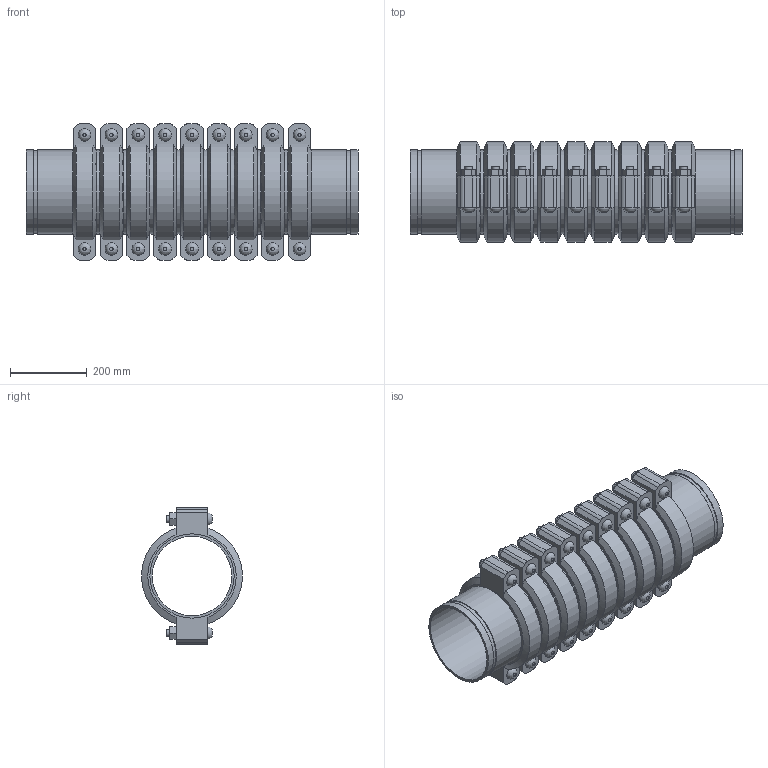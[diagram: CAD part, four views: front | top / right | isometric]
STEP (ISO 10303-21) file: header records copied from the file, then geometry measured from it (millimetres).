
FILE_DESCRIPTION(/* description */ ('VIC EXPANSION JOINT 9 COUPLINGS COMPRESSED STYLE 155 (OGS)','CAx-IF Rec.Pracs.---Representation and Presentation of Product Manufacturing Information (PMI)---4.0---2014-10-13'),/* implementation_level */ '2;1');
FILE_NAME(/* name */ 'C:\Users\kkamble\AppData\Roaming\Autodesk\ApplicationPlugins\Victaulic.Temp\A901\Victaulic_IPS_Expansion Joint_Compressed_9 Couplings_Style 155 (OGS)_8 (200).stp',/* time_stamp */ '2021-06-27T00:38:56+02:00',/* author */ ('kkamble'),/* organization */ ('Victaulic'),/* preprocessor_version */ 'ST-DEVELOPER v17.2',/* originating_system */ 'Autodesk Inventor 2019',/* authorisation */ '');
FILE_SCHEMA (('AP242_MANAGED_MODEL_BASED_3D_ENGINEERING_MIM_LF { 1 0 10303 442 1 1 4 }'));
Length unit declared in the file: inch
Products named in the file (4): 155-08.0; Nipple-08.0; Nipple-08.0_1; 075_9_Coup-08.0
Assembly tree (19 placements, depth 2):
  155-08.0
    Nipple-08.0  x2
    Nipple-08.0_1  x8
    075_9_Coup-08.0  x9
Bounding box: 863.6 x 261.72 x 354.84 mm (x, y, z)
Volume: 15448573.3 mm3; surface area: 2823203.4 mm2
Topology: 19 solids, 37 shells, 633 faces, 1497 edges, 1050 vertices
Faces by surface type: plane 384, cylinder 195, cone 36, bspline 18
Full cylindrical faces by diameter (mm): 19.05 x36, 21.209 x18, 206.985 x10, 212.725 x9, 214.401 x20, 219.075 x48
Entity records: 2874 total; most frequent: CARTESIAN_POINT 503, DIRECTION 481, ORIENTED_EDGE 386, AXIS2_PLACEMENT_3D 194, EDGE_CURVE 193, VERTEX_POINT 138, EDGE_LOOP 107, LINE 93
